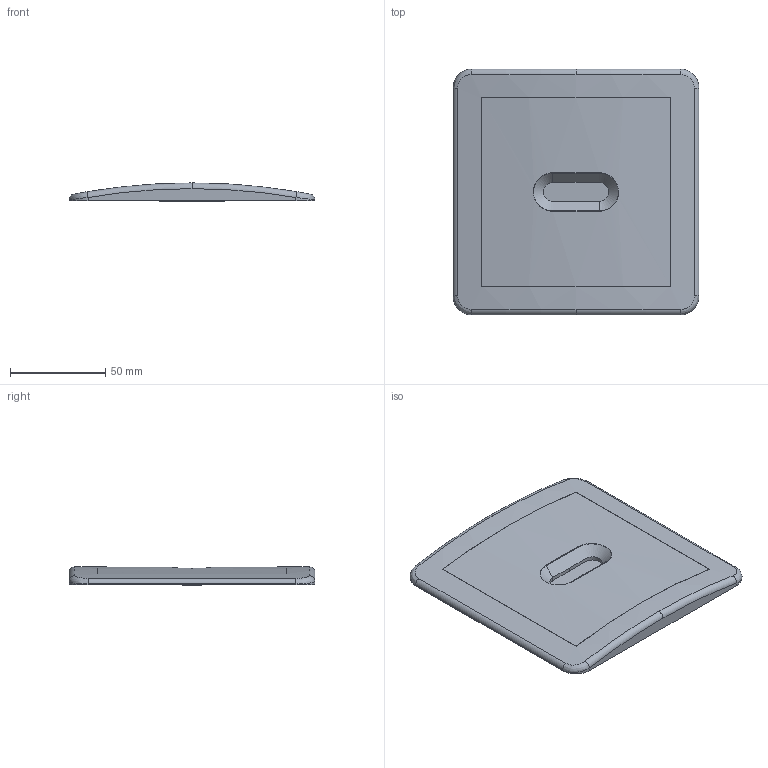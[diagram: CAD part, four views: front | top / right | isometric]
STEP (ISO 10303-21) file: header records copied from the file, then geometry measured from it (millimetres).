
FILE_DESCRIPTION (( 'STEP AP203' ), '1' );
FILE_NAME ('ES3300.STEP', '2016-08-15T08:05:27', ( '' ), ( '' ), 'SwSTEP 2.0', 'SolidWorks 2016', '' );
FILE_SCHEMA (( 'CONFIG_CONTROL_DESIGN' ));
Length unit declared in the file: millimetre
Products named in the file (1): ES3300
Bounding box: 129 x 129 x 9.5 mm (x, y, z)
Volume: 96490.6 mm3; surface area: 45237.7 mm2
Topology: 3 solids, 3 shells, 98 faces, 250 edges, 161 vertices
Faces by surface type: bspline 37, plane 31, cylinder 22, torus 8
Entity records: 7066 total; most frequent: CARTESIAN_POINT 4857, ORIENTED_EDGE 500, DIRECTION 364, EDGE_CURVE 250, VERTEX_POINT 161, AXIS2_PLACEMENT_3D 141, EDGE_LOOP 105, FACE_OUTER_BOUND 98
